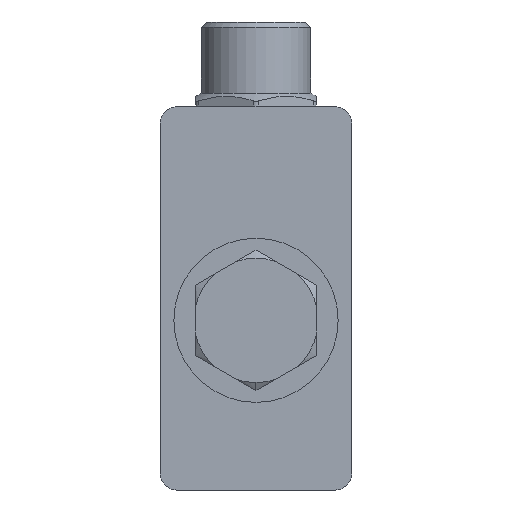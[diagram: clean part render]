
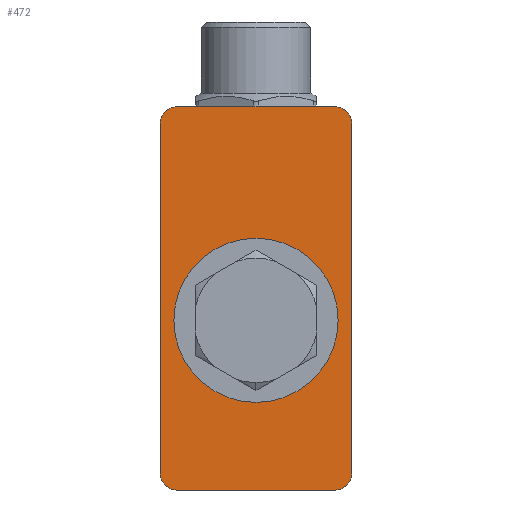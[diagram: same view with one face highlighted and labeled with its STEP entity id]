
A CAD part, left-side view. The second image highlights one B-rep face of the part: STEP entity #472.
In plain terms, the highlighted planar face has unit normal (-1, 0, 0).
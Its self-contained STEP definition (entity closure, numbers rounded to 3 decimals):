
#56 = DIRECTION ( 'NONE',  ( 0., 0., -1. ) ) ;
#191 = EDGE_CURVE ( 'NONE', #2494, #2264, #3810, .T. ) ;
#436 = ORIENTED_EDGE ( 'NONE', *, *, #191, .T. ) ;
#446 = CARTESIAN_POINT ( 'NONE',  ( -47.5, 0., 11. ) ) ;
#472 = ADVANCED_FACE ( 'NONE', ( #701, #2901 ), #4070, .F. ) ;
#488 = DIRECTION ( 'NONE',  ( 0., 0., -1. ) ) ;
#701 = FACE_BOUND ( 'NONE', #3888, .T. ) ;
#718 = CIRCLE ( 'NONE', #949, 3. ) ;
#949 = AXIS2_PLACEMENT_3D ( 'NONE', #6232, #3310, #2749 ) ;
#1030 = ORIENTED_EDGE ( 'NONE', *, *, #5901, .T. ) ;
#1042 = LINE ( 'NONE', #6203, #2835 ) ;
#1048 = CARTESIAN_POINT ( 'NONE',  ( -47.5, 17.5, 35. ) ) ;
#1076 = VERTEX_POINT ( 'NONE', #5728 ) ;
#1089 = DIRECTION ( 'NONE',  ( 0., 0., 1. ) ) ;
#1158 = CARTESIAN_POINT ( 'NONE',  ( -47.5, 14.5, -35. ) ) ;
#1169 = CARTESIAN_POINT ( 'NONE',  ( -47.5, -14.5, 32. ) ) ;
#1227 = VECTOR ( 'NONE', #2800, 1000. ) ;
#1384 = ORIENTED_EDGE ( 'NONE', *, *, #7251, .T. ) ;
#1465 = EDGE_CURVE ( 'NONE', #2454, #3670, #3062, .T. ) ;
#1475 = ORIENTED_EDGE ( 'NONE', *, *, #5027, .T. ) ;
#1570 = ORIENTED_EDGE ( 'NONE', *, *, #3472, .F. ) ;
#1806 = VECTOR ( 'NONE', #5778, 1000. ) ;
#1826 = ORIENTED_EDGE ( 'NONE', *, *, #6804, .T. ) ;
#2050 = DIRECTION ( 'NONE',  ( 0., -1., 0. ) ) ;
#2205 = ORIENTED_EDGE ( 'NONE', *, *, #5257, .F. ) ;
#2264 = VERTEX_POINT ( 'NONE', #3508 ) ;
#2321 = VERTEX_POINT ( 'NONE', #3171 ) ;
#2368 = ORIENTED_EDGE ( 'NONE', *, *, #4724, .T. ) ;
#2439 = AXIS2_PLACEMENT_3D ( 'NONE', #5354, #6392, #4682 ) ;
#2449 = DIRECTION ( 'NONE',  ( 1., 0., 0. ) ) ;
#2454 = VERTEX_POINT ( 'NONE', #446 ) ;
#2492 = CARTESIAN_POINT ( 'NONE',  ( -47.5, -17.5, 32. ) ) ;
#2494 = VERTEX_POINT ( 'NONE', #1158 ) ;
#2588 = LINE ( 'NONE', #4883, #1806 ) ;
#2686 = AXIS2_PLACEMENT_3D ( 'NONE', #6521, #3686, #5970 ) ;
#2749 = DIRECTION ( 'NONE',  ( 0., 0., -1. ) ) ;
#2800 = DIRECTION ( 'NONE',  ( 0., -1., 0. ) ) ;
#2835 = VECTOR ( 'NONE', #1089, 1000. ) ;
#2880 = DIRECTION ( 'NONE',  ( -1., 0., 0. ) ) ;
#2888 = CARTESIAN_POINT ( 'NONE',  ( -47.5, 0., -4. ) ) ;
#2901 = FACE_OUTER_BOUND ( 'NONE', #3226, .T. ) ;
#3043 = CIRCLE ( 'NONE', #4487, 15. ) ;
#3062 = CIRCLE ( 'NONE', #6056, 15. ) ;
#3171 = CARTESIAN_POINT ( 'NONE',  ( -47.5, 14.5, 35. ) ) ;
#3226 = EDGE_LOOP ( 'NONE', ( #1570, #1384, #436, #1475, #1826, #2368, #2205, #4932 ) ) ;
#3310 = DIRECTION ( 'NONE',  ( -1., 0., 0. ) ) ;
#3472 = EDGE_CURVE ( 'NONE', #5153, #6509, #1042, .T. ) ;
#3508 = CARTESIAN_POINT ( 'NONE',  ( -47.5, -14.5, -35. ) ) ;
#3670 = VERTEX_POINT ( 'NONE', #6463 ) ;
#3686 = DIRECTION ( 'NONE',  ( -1., 0., 0. ) ) ;
#3751 = CARTESIAN_POINT ( 'NONE',  ( -47.5, -14.5, 35. ) ) ;
#3810 = LINE ( 'NONE', #7171, #6444 ) ;
#3888 = EDGE_LOOP ( 'NONE', ( #1030, #7126 ) ) ;
#4001 = DIRECTION ( 'NONE',  ( 1., 0., 0. ) ) ;
#4070 = PLANE ( 'NONE',  #5141 ) ;
#4355 = CIRCLE ( 'NONE', #2439, 3. ) ;
#4487 = AXIS2_PLACEMENT_3D ( 'NONE', #2888, #5173, #56 ) ;
#4642 = DIRECTION ( 'NONE',  ( 0., 0., -1. ) ) ;
#4682 = DIRECTION ( 'NONE',  ( 0., 0., -1. ) ) ;
#4724 = EDGE_CURVE ( 'NONE', #5117, #6035, #5960, .T. ) ;
#4883 = CARTESIAN_POINT ( 'NONE',  ( -47.5, -17.5, 35. ) ) ;
#4932 = ORIENTED_EDGE ( 'NONE', *, *, #5732, .T. ) ;
#5027 = EDGE_CURVE ( 'NONE', #2264, #1076, #718, .T. ) ;
#5117 = VERTEX_POINT ( 'NONE', #2492 ) ;
#5141 = AXIS2_PLACEMENT_3D ( 'NONE', #5223, #2449, #6378 ) ;
#5153 = VERTEX_POINT ( 'NONE', #7055 ) ;
#5173 = DIRECTION ( 'NONE',  ( 1., 0., 0. ) ) ;
#5223 = CARTESIAN_POINT ( 'NONE',  ( -47.5, 17.5, 35. ) ) ;
#5257 = EDGE_CURVE ( 'NONE', #2321, #6035, #7361, .T. ) ;
#5354 = CARTESIAN_POINT ( 'NONE',  ( -47.5, 14.5, -32. ) ) ;
#5565 = CARTESIAN_POINT ( 'NONE',  ( -47.5, 0., -4. ) ) ;
#5728 = CARTESIAN_POINT ( 'NONE',  ( -47.5, -17.5, -32. ) ) ;
#5730 = AXIS2_PLACEMENT_3D ( 'NONE', #1169, #2880, #4642 ) ;
#5732 = EDGE_CURVE ( 'NONE', #2321, #6509, #6999, .T. ) ;
#5778 = DIRECTION ( 'NONE',  ( 0., 0., 1. ) ) ;
#5901 = EDGE_CURVE ( 'NONE', #3670, #2454, #3043, .T. ) ;
#5960 = CIRCLE ( 'NONE', #5730, 3. ) ;
#5970 = DIRECTION ( 'NONE',  ( 0., 0., -1. ) ) ;
#6035 = VERTEX_POINT ( 'NONE', #3751 ) ;
#6056 = AXIS2_PLACEMENT_3D ( 'NONE', #5565, #4001, #488 ) ;
#6203 = CARTESIAN_POINT ( 'NONE',  ( -47.5, 17.5, 35. ) ) ;
#6232 = CARTESIAN_POINT ( 'NONE',  ( -47.5, -14.5, -32. ) ) ;
#6378 = DIRECTION ( 'NONE',  ( 0., 0., -1. ) ) ;
#6392 = DIRECTION ( 'NONE',  ( -1., 0., 0. ) ) ;
#6444 = VECTOR ( 'NONE', #2050, 1000. ) ;
#6463 = CARTESIAN_POINT ( 'NONE',  ( -47.5, 0., -19. ) ) ;
#6509 = VERTEX_POINT ( 'NONE', #6903 ) ;
#6521 = CARTESIAN_POINT ( 'NONE',  ( -47.5, 14.5, 32. ) ) ;
#6804 = EDGE_CURVE ( 'NONE', #1076, #5117, #2588, .T. ) ;
#6903 = CARTESIAN_POINT ( 'NONE',  ( -47.5, 17.5, 32. ) ) ;
#6999 = CIRCLE ( 'NONE', #2686, 3. ) ;
#7055 = CARTESIAN_POINT ( 'NONE',  ( -47.5, 17.5, -32. ) ) ;
#7126 = ORIENTED_EDGE ( 'NONE', *, *, #1465, .T. ) ;
#7171 = CARTESIAN_POINT ( 'NONE',  ( -47.5, 17.5, -35. ) ) ;
#7251 = EDGE_CURVE ( 'NONE', #5153, #2494, #4355, .T. ) ;
#7361 = LINE ( 'NONE', #1048, #1227 ) ;
